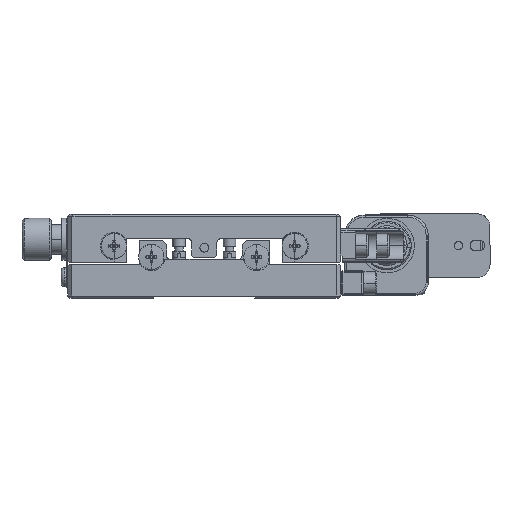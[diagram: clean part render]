
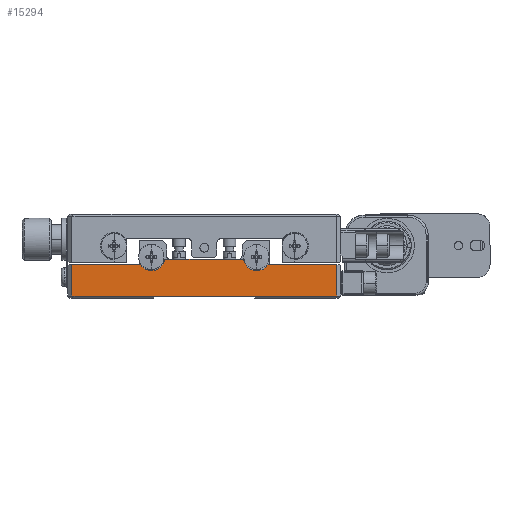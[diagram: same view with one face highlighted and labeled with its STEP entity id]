
A CAD part, left-side view. The second image highlights one B-rep face of the part: STEP entity #15294.
In plain terms, the highlighted planar face has unit normal (-1, 0, 0).
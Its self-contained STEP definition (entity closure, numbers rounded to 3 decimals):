
#110 = LINE ( 'NONE', #40740, #14837 ) ;
#211 = CARTESIAN_POINT ( 'NONE',  ( -32.5, 31.5, 8. ) ) ;
#1002 = VECTOR ( 'NONE', #38868, 1000. ) ;
#1293 = CARTESIAN_POINT ( 'NONE',  ( -32.5, -31.5, 0.5 ) ) ;
#2036 = VECTOR ( 'NONE', #35874, 1000. ) ;
#2230 = CIRCLE ( 'NONE', #36646, 3.25 ) ;
#3610 = VERTEX_POINT ( 'NONE', #28713 ) ;
#3616 = LINE ( 'NONE', #1293, #2036 ) ;
#4518 = CARTESIAN_POINT ( 'NONE',  ( -32.5, -31.5, 8. ) ) ;
#5009 = LINE ( 'NONE', #19864, #1002 ) ;
#5069 = DIRECTION ( 'NONE',  ( 1., 0., 0. ) ) ;
#5537 = EDGE_CURVE ( 'NONE', #41134, #12990, #5009, .T. ) ;
#6367 = LINE ( 'NONE', #14676, #37103 ) ;
#6664 = CARTESIAN_POINT ( 'NONE',  ( -32.5, -12.5, 9.8 ) ) ;
#7638 = CARTESIAN_POINT ( 'NONE',  ( -32.5, 12.6, 9.8 ) ) ;
#9768 = VERTEX_POINT ( 'NONE', #211 ) ;
#9896 = CARTESIAN_POINT ( 'NONE',  ( -32.5, -31.5, 0.5 ) ) ;
#10110 = EDGE_CURVE ( 'NONE', #12990, #3610, #31686, .T. ) ;
#10889 = CARTESIAN_POINT ( 'NONE',  ( -32.5, -9.306, 9.2 ) ) ;
#11519 = EDGE_CURVE ( 'NONE', #3610, #9768, #110, .T. ) ;
#11937 = DIRECTION ( 'NONE',  ( 0., 0.833, -0.554 ) ) ;
#12990 = VERTEX_POINT ( 'NONE', #30925 ) ;
#14676 = CARTESIAN_POINT ( 'NONE',  ( -32.5, 31.5, 0.5 ) ) ;
#14837 = VECTOR ( 'NONE', #28767, 1000. ) ;
#15294 = ADVANCED_FACE ( 'NONE', ( #27317 ), #42546, .T. ) ;
#17107 = EDGE_CURVE ( 'NONE', #44167, #44942, #3616, .T. ) ;
#17165 = ORIENTED_EDGE ( 'NONE', *, *, #24063, .T. ) ;
#17771 = DIRECTION ( 'NONE',  ( 0., 0.983, -0.185 ) ) ;
#19207 = EDGE_CURVE ( 'NONE', #33708, #44167, #34849, .T. ) ;
#19327 = EDGE_LOOP ( 'NONE', ( #24149, #46761, #17165, #37592, #21272, #30844, #36327, #34373 ) ) ;
#19864 = CARTESIAN_POINT ( 'NONE',  ( -32.5, -9.306, 9.2 ) ) ;
#21272 = ORIENTED_EDGE ( 'NONE', *, *, #5537, .T. ) ;
#21669 = CARTESIAN_POINT ( 'NONE',  ( -32.5, -31.5, 8. ) ) ;
#24063 = EDGE_CURVE ( 'NONE', #33708, #34308, #30116, .T. ) ;
#24149 = ORIENTED_EDGE ( 'NONE', *, *, #17107, .F. ) ;
#25299 = VECTOR ( 'NONE', #29865, 1000. ) ;
#25320 = AXIS2_PLACEMENT_3D ( 'NONE', #7638, #5069, #11937 ) ;
#25885 = CARTESIAN_POINT ( 'NONE',  ( -32.5, -31.5, 8. ) ) ;
#26342 = DIRECTION ( 'NONE',  ( -1., 0., 0. ) ) ;
#27084 = EDGE_CURVE ( 'NONE', #34308, #41134, #2230, .T. ) ;
#27317 = FACE_OUTER_BOUND ( 'NONE', #19327, .T. ) ;
#28713 = CARTESIAN_POINT ( 'NONE',  ( -32.5, 15.306, 8. ) ) ;
#28767 = DIRECTION ( 'NONE',  ( 0., 1., 0. ) ) ;
#29702 = DIRECTION ( 'NONE',  ( 0., 0., 1. ) ) ;
#29865 = DIRECTION ( 'NONE',  ( 0., 1., 0. ) ) ;
#30116 = LINE ( 'NONE', #25885, #25299 ) ;
#30814 = DIRECTION ( 'NONE',  ( 0., 0., 1. ) ) ;
#30844 = ORIENTED_EDGE ( 'NONE', *, *, #10110, .T. ) ;
#30925 = CARTESIAN_POINT ( 'NONE',  ( -32.5, 9.406, 9.2 ) ) ;
#31686 = CIRCLE ( 'NONE', #25320, 3.25 ) ;
#33708 = VERTEX_POINT ( 'NONE', #21669 ) ;
#34308 = VERTEX_POINT ( 'NONE', #39311 ) ;
#34373 = ORIENTED_EDGE ( 'NONE', *, *, #38625, .F. ) ;
#34849 = LINE ( 'NONE', #4518, #37147 ) ;
#35618 = CARTESIAN_POINT ( 'NONE',  ( -32.5, 31.5, 0.5 ) ) ;
#35874 = DIRECTION ( 'NONE',  ( 0., 1., 0. ) ) ;
#36327 = ORIENTED_EDGE ( 'NONE', *, *, #11519, .T. ) ;
#36646 = AXIS2_PLACEMENT_3D ( 'NONE', #6664, #44025, #17771 ) ;
#37103 = VECTOR ( 'NONE', #29702, 1000. ) ;
#37147 = VECTOR ( 'NONE', #39099, 1000. ) ;
#37592 = ORIENTED_EDGE ( 'NONE', *, *, #27084, .T. ) ;
#38625 = EDGE_CURVE ( 'NONE', #44942, #9768, #6367, .T. ) ;
#38868 = DIRECTION ( 'NONE',  ( 0., 1., 0. ) ) ;
#39099 = DIRECTION ( 'NONE',  ( 0., 0., -1. ) ) ;
#39311 = CARTESIAN_POINT ( 'NONE',  ( -32.5, -15.206, 8. ) ) ;
#40740 = CARTESIAN_POINT ( 'NONE',  ( -32.5, 15.306, 8. ) ) ;
#41134 = VERTEX_POINT ( 'NONE', #10889 ) ;
#42546 = PLANE ( 'NONE',  #46918 ) ;
#44025 = DIRECTION ( 'NONE',  ( 1., 0., 0. ) ) ;
#44167 = VERTEX_POINT ( 'NONE', #9896 ) ;
#44942 = VERTEX_POINT ( 'NONE', #35618 ) ;
#46761 = ORIENTED_EDGE ( 'NONE', *, *, #19207, .F. ) ;
#46918 = AXIS2_PLACEMENT_3D ( 'NONE', #47798, #26342, #30814 ) ;
#47798 = CARTESIAN_POINT ( 'NONE',  ( -32.5, -32.5, 0. ) ) ;
